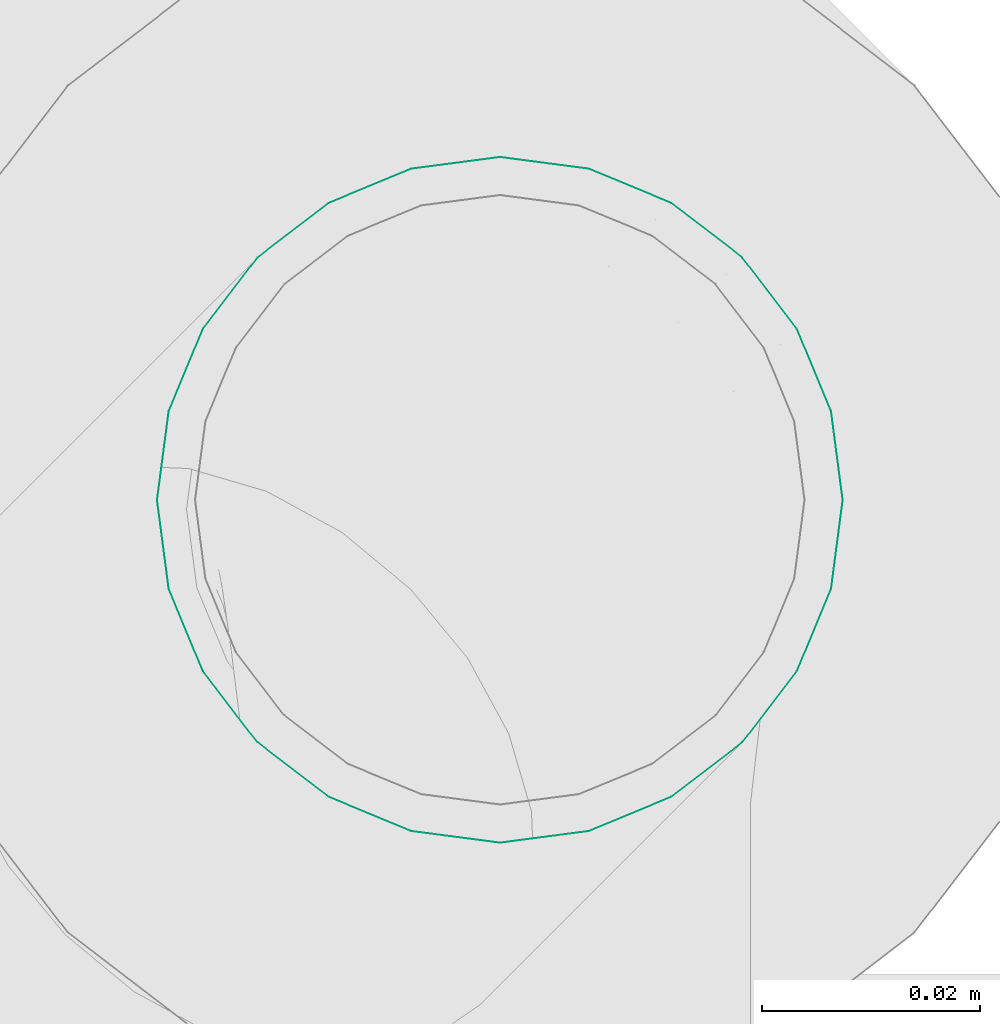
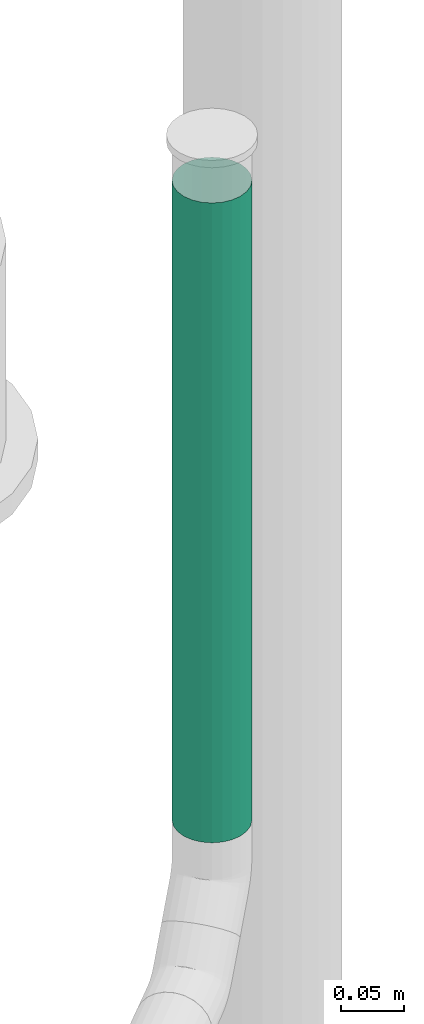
# One storey, part 303 of 374: 1 flow segment.
"""IFC2X3 building model written with IfcOpenShell, lengths in metres."""

from ifc_helpers import new_model, si_unit, direction, origin, place, context, subcontext, project, spatial, open_shell, surface_model, source, transform, mapped, element, save


model = new_model("IFC2X3")

# Units and contexts
model_context = context("Model", 3, precision=1e-05, world=origin(), true_north=direction((-0.4480736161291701, 0.8939966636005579)))
body_context = subcontext(model_context, "Body", "Model", "MODEL_VIEW")
ifc_project = project(units=[si_unit("LENGTHUNIT", "METRE"), si_unit("AREAUNIT", "SQUARE_METRE"), si_unit("VOLUMEUNIT", "CUBIC_METRE"), si_unit("PLANEANGLEUNIT", "RADIAN"), si_unit("THERMODYNAMICTEMPERATUREUNIT", "KELVIN"), si_unit("MASSUNIT", "GRAM", prefix="KILO"), si_unit("TIMEUNIT", "SECOND")], contexts=[model_context])

# Site, building, storey
site_placement = place(None, origin())
site = spatial("IfcSite", under=ifc_project, at=site_placement, Name="Site 1", CompositionType="ELEMENT")
building_placement = place(site_placement, origin())
building = spatial("IfcBuilding", under=site, at=building_placement, Name="Undefined", CompositionType="ELEMENT")
storey_placement = place(building_placement, origin())
storey = spatial("IfcBuildingStorey", under=building, at=storey_placement, Name="Rez de chauss\x8ee", CompositionType="ELEMENT", Elevation=0.0)

# Flow segment
shared_shape = source(origin(), body_context, "Body", "SurfaceModel", [
    surface_model("IfcFaceBasedSurfaceModel", [(0.0, 0.008223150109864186, -7.105427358e-15), (0.0, 0.0, 0.0), (0.6151223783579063, 0.0, 7.105427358e-15), (0.6151223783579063, 0.008223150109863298, 7.105427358e-15), (0.0, -0.007942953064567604, -0.002128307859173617), (0.6151223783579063, -0.007942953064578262, -0.0021283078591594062), (-7.105427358e-15, -0.015064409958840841, -0.006239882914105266), (0.6151223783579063, -0.01506440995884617, -0.006239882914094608), (0.0, -0.020879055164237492, -0.012054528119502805), (0.6151223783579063, -0.020879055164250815, -0.012054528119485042), (0.0, -0.024990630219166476, -0.01917598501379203), (0.6151223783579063, -0.02499063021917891, -0.019175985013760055), (-7.105427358e-15, -0.027118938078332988, -0.027118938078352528), (0.6151223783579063, -0.027118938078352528, -0.02711893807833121), (-1.4210854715e-14, -0.02711893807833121, -0.035342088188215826), (0.6151223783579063, -0.027118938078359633, -0.03534208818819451), (-7.105427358e-15, -0.024990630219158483, -0.04328504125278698), (0.6151223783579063, -0.024990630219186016, -0.04328504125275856), (-7.105427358e-15, -0.02087905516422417, -0.050406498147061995), (0.6151223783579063, -0.02087905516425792, -0.05040649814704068), (-7.105427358e-15, -0.015064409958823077, -0.05622114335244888), (0.6151223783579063, -0.01506440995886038, -0.05622114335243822), (-1.4210854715e-14, -0.007942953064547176, -0.06033271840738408), (0.6151223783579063, -0.007942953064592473, -0.060332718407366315), (0.0, 2.2204460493e-14, -0.06246102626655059), (0.6151223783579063, -2.1316282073e-14, -0.06246102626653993), (0.0, 0.00822315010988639, -0.06246102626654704), (0.6151223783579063, 0.008223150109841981, -0.06246102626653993), (-7.105427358e-15, 0.016166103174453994, -0.06033271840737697), (0.6151223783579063, 0.016166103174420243, -0.060332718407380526), (-7.105427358e-15, 0.02328756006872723, -0.056221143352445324), (0.6151223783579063, 0.02328756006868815, -0.05622114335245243), (0.0, 0.029102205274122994, -0.05040649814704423), (0.6151223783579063, 0.029102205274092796, -0.050406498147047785), (-7.105427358e-15, 0.03321378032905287, -0.043285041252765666), (0.6151223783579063, 0.03321378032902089, -0.04328504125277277), (-7.105427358e-15, 0.03534208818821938, -0.03534208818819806), (0.6151223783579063, 0.03534208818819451, -0.03534208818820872), (-7.105427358e-15, 0.0353420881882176, -0.027118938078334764), (0.6151223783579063, 0.03534208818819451, -0.027118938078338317), (-7.105427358e-15, 0.03321378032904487, -0.019175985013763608), (0.6151223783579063, 0.033213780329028, -0.019175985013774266), (-7.105427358e-15, 0.02910220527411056, -0.012054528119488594), (0.6151223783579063, 0.0291022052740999, -0.012054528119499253), (-7.105427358e-15, 0.023287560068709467, -0.00623988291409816), (0.6151223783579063, 0.023287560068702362, -0.006239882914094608), (-7.105427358e-15, 0.016166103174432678, -0.0021283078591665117), (0.6151223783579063, 0.01616610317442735, -0.0021283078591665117)], [open_shell([[[0, 1, 2, 3]], [[1, 4, 5, 2]], [[4, 6, 7, 5]], [[6, 8, 9, 7]], [[8, 10, 11, 9]], [[10, 12, 13, 11]], [[12, 14, 15, 13]], [[14, 16, 17, 15]], [[16, 18, 19, 17]], [[18, 20, 21, 19]], [[20, 22, 23, 21]], [[22, 24, 25, 23]], [[24, 26, 27, 25]], [[26, 28, 29, 27]], [[28, 30, 31, 29]], [[30, 32, 33, 31]], [[32, 34, 35, 33]], [[34, 36, 37, 35]], [[36, 38, 39, 37]], [[38, 40, 41, 39]], [[40, 42, 43, 41]], [[42, 44, 45, 43]], [[44, 46, 47, 45]], [[46, 0, 3, 47]]])]),
])
flow_segment_placement = place(storey_placement, origin())
element("IfcFlowSegment", 1, at=flow_segment_placement, inside=storey, Name="PE-HD tuyau", ObjectType="PE-HD tuyau", context=body_context, shape_type="MappedRepresentation", body=[
    mapped(shared_shape, transform((58.54772738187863, 13.427461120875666, 4.782433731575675), x_axis=(0.0, 0.0, 1.0), y_axis=(0.6087614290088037, 0.7933533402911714, 0.0), z_axis=(-0.7933533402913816, 0.6087614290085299, 0.0))),
])

save(model, "model.ifc")
